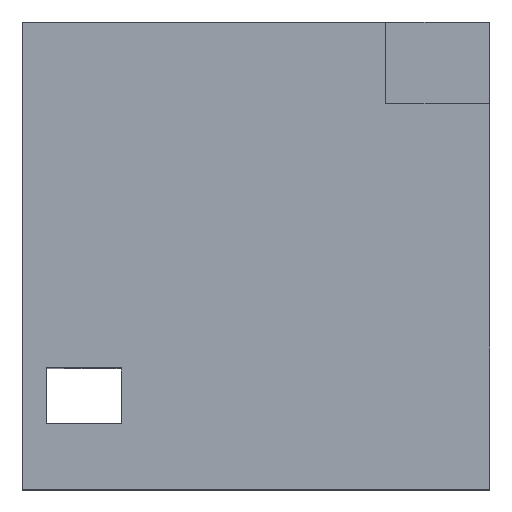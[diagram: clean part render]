
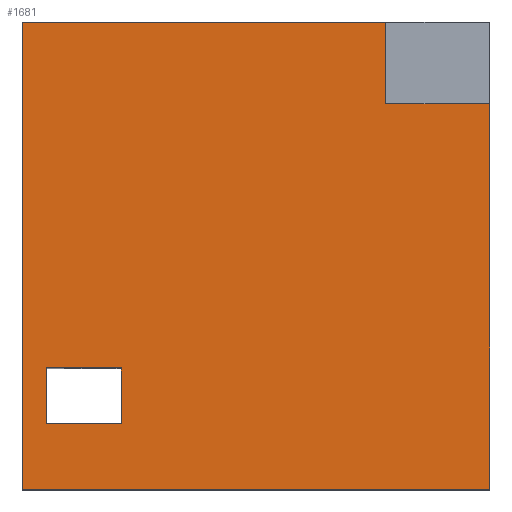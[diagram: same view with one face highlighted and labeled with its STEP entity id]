
A CAD part, top view. The second image highlights one B-rep face of the part: STEP entity #1681.
In plain terms, the highlighted planar face has unit normal (0, 0, 1).
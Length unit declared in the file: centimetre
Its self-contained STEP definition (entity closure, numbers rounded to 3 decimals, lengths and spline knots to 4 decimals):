
#122 = EDGE_CURVE ( 'NONE', #542, #579, #2167, .T. ) ;
#132 = EDGE_CURVE ( 'NONE', #1677, #542, #1457, .T. ) ;
#163 = EDGE_CURVE ( 'NONE', #318, #2071, #2010, .T. ) ;
#190 = VECTOR ( 'NONE', #700, 100. ) ;
#192 = EDGE_CURVE ( 'NONE', #1783, #795, #1335, .T. ) ;
#218 = ORIENTED_EDGE ( 'NONE', *, *, #577, .F. ) ;
#229 = CARTESIAN_POINT ( 'NONE',  ( 211.6637, 140.031, 1000. ) ) ;
#246 = ORIENTED_EDGE ( 'NONE', *, *, #1211, .F. ) ;
#318 = VERTEX_POINT ( 'NONE', #1377 ) ;
#351 = PLANE ( 'NONE',  #846 ) ;
#358 = ORIENTED_EDGE ( 'NONE', *, *, #122, .F. ) ;
#360 = DIRECTION ( 'NONE',  ( 0., 0., 1. ) ) ;
#371 = EDGE_CURVE ( 'NONE', #2071, #1783, #855, .T. ) ;
#421 = DIRECTION ( 'NONE',  ( 0., -1., 0. ) ) ;
#423 = DIRECTION ( 'NONE',  ( -1., 0., 0. ) ) ;
#499 = ORIENTED_EDGE ( 'NONE', *, *, #866, .F. ) ;
#517 = LINE ( 'NONE', #1213, #1904 ) ;
#537 = CARTESIAN_POINT ( 'NONE',  ( 211.6637, 259.4669, 1000. ) ) ;
#542 = VERTEX_POINT ( 'NONE', #743 ) ;
#557 = VECTOR ( 'NONE', #2234, 100. ) ;
#560 = CARTESIAN_POINT ( 'NONE',  ( 1000., 825.1638, 1000. ) ) ;
#575 = CARTESIAN_POINT ( 'NONE',  ( 777.4929, 825.1638, 1000. ) ) ;
#577 = EDGE_CURVE ( 'NONE', #983, #1677, #732, .T. ) ;
#579 = VERTEX_POINT ( 'NONE', #2025 ) ;
#583 = LINE ( 'NONE', #575, #1125 ) ;
#680 = FACE_BOUND ( 'NONE', #2252, .T. ) ;
#700 = DIRECTION ( 'NONE',  ( 0., 1., 0. ) ) ;
#725 = FACE_OUTER_BOUND ( 'NONE', #2211, .T. ) ;
#732 = LINE ( 'NONE', #229, #190 ) ;
#741 = CARTESIAN_POINT ( 'NONE',  ( 777.4929, 1000., 1000. ) ) ;
#743 = CARTESIAN_POINT ( 'NONE',  ( 50.8468, 259.4669, 1000. ) ) ;
#764 = VECTOR ( 'NONE', #1801, 100. ) ;
#788 = LINE ( 'NONE', #2168, #1870 ) ;
#795 = VERTEX_POINT ( 'NONE', #560 ) ;
#846 = AXIS2_PLACEMENT_3D ( 'NONE', #2075, #360, #1429 ) ;
#855 = LINE ( 'NONE', #1009, #557 ) ;
#866 = EDGE_CURVE ( 'NONE', #579, #983, #517, .T. ) ;
#911 = VECTOR ( 'NONE', #421, 100. ) ;
#983 = VERTEX_POINT ( 'NONE', #1639 ) ;
#1009 = CARTESIAN_POINT ( 'NONE',  ( 0., 0., 1000. ) ) ;
#1081 = VERTEX_POINT ( 'NONE', #2074 ) ;
#1123 = ORIENTED_EDGE ( 'NONE', *, *, #163, .T. ) ;
#1125 = VECTOR ( 'NONE', #1604, 100. ) ;
#1131 = VECTOR ( 'NONE', #2155, 100. ) ;
#1203 = ORIENTED_EDGE ( 'NONE', *, *, #1395, .T. ) ;
#1211 = EDGE_CURVE ( 'NONE', #1081, #795, #1771, .T. ) ;
#1213 = CARTESIAN_POINT ( 'NONE',  ( 50.8468, 140.031, 1000. ) ) ;
#1240 = CARTESIAN_POINT ( 'NONE',  ( 777.4929, 825.1638, 1000. ) ) ;
#1285 = CARTESIAN_POINT ( 'NONE',  ( 50.8468, 140.031, 1000. ) ) ;
#1292 = VECTOR ( 'NONE', #2145, 100. ) ;
#1308 = CARTESIAN_POINT ( 'NONE',  ( 50.8468, 259.4669, 1000. ) ) ;
#1335 = LINE ( 'NONE', #2177, #764 ) ;
#1377 = CARTESIAN_POINT ( 'NONE',  ( 0., 1000., 1000. ) ) ;
#1395 = EDGE_CURVE ( 'NONE', #2035, #318, #788, .T. ) ;
#1429 = DIRECTION ( 'NONE',  ( 1., 0., 0. ) ) ;
#1457 = LINE ( 'NONE', #1308, #1131 ) ;
#1488 = ORIENTED_EDGE ( 'NONE', *, *, #371, .T. ) ;
#1503 = CARTESIAN_POINT ( 'NONE',  ( 0., 1000., 1000. ) ) ;
#1566 = ORIENTED_EDGE ( 'NONE', *, *, #1832, .F. ) ;
#1604 = DIRECTION ( 'NONE',  ( 0., -1., 0. ) ) ;
#1631 = DIRECTION ( 'NONE',  ( 0., -1., 0. ) ) ;
#1639 = CARTESIAN_POINT ( 'NONE',  ( 211.6637, 140.031, 1000. ) ) ;
#1677 = VERTEX_POINT ( 'NONE', #537 ) ;
#1681 = ADVANCED_FACE ( 'NONE', ( #680, #725 ), #351, .T. ) ;
#1735 = ORIENTED_EDGE ( 'NONE', *, *, #132, .F. ) ;
#1771 = LINE ( 'NONE', #1240, #1292 ) ;
#1783 = VERTEX_POINT ( 'NONE', #1981 ) ;
#1801 = DIRECTION ( 'NONE',  ( 0., 1., 0. ) ) ;
#1816 = ORIENTED_EDGE ( 'NONE', *, *, #192, .T. ) ;
#1832 = EDGE_CURVE ( 'NONE', #2035, #1081, #583, .T. ) ;
#1870 = VECTOR ( 'NONE', #423, 100. ) ;
#1904 = VECTOR ( 'NONE', #1905, 100. ) ;
#1905 = DIRECTION ( 'NONE',  ( 1., 0., 0. ) ) ;
#1981 = CARTESIAN_POINT ( 'NONE',  ( 1000., 0., 1000. ) ) ;
#2010 = LINE ( 'NONE', #1503, #911 ) ;
#2025 = CARTESIAN_POINT ( 'NONE',  ( 50.8468, 140.031, 1000. ) ) ;
#2035 = VERTEX_POINT ( 'NONE', #741 ) ;
#2071 = VERTEX_POINT ( 'NONE', #2134 ) ;
#2074 = CARTESIAN_POINT ( 'NONE',  ( 777.4929, 825.1638, 1000. ) ) ;
#2075 = CARTESIAN_POINT ( 'NONE',  ( 0., 0., 1000. ) ) ;
#2128 = VECTOR ( 'NONE', #1631, 100. ) ;
#2134 = CARTESIAN_POINT ( 'NONE',  ( 0., 0., 1000. ) ) ;
#2145 = DIRECTION ( 'NONE',  ( 1., 0., 0. ) ) ;
#2155 = DIRECTION ( 'NONE',  ( -1., 0., 0. ) ) ;
#2167 = LINE ( 'NONE', #1285, #2128 ) ;
#2168 = CARTESIAN_POINT ( 'NONE',  ( 0., 1000., 1000. ) ) ;
#2177 = CARTESIAN_POINT ( 'NONE',  ( 1000., 1000., 1000. ) ) ;
#2211 = EDGE_LOOP ( 'NONE', ( #1566, #1203, #1123, #1488, #1816, #246 ) ) ;
#2234 = DIRECTION ( 'NONE',  ( 1., 0., 0. ) ) ;
#2252 = EDGE_LOOP ( 'NONE', ( #358, #1735, #218, #499 ) ) ;
